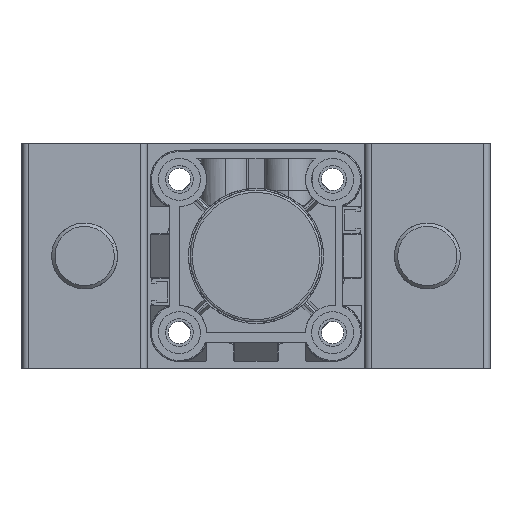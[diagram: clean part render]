
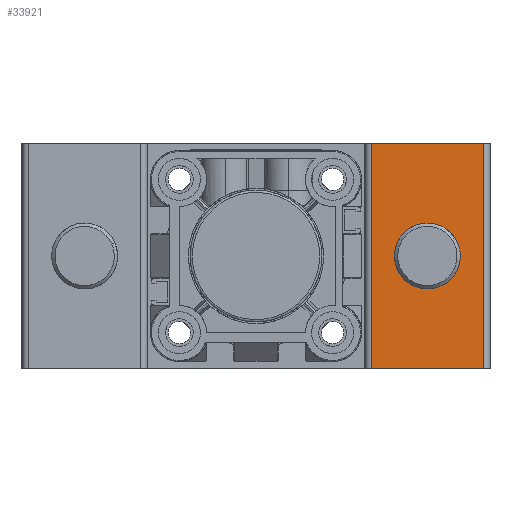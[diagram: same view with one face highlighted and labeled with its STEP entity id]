
A CAD part, front view. The second image highlights one B-rep face of the part: STEP entity #33921.
In plain terms, the highlighted planar face has unit normal (0, -1, 0).
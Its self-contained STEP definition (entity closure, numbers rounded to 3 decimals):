
#829 = AXIS2_PLACEMENT_3D ( 'NONE', #4124, #10228, #31377 ) ;
#1390 = VECTOR ( 'NONE', #4211, 1000. ) ;
#1780 = FACE_OUTER_BOUND ( 'NONE', #31343, .T. ) ;
#2464 = VERTEX_POINT ( 'NONE', #5852 ) ;
#3019 = LINE ( 'NONE', #5298, #26238 ) ;
#3596 = DIRECTION ( 'NONE',  ( 0., -1., 0. ) ) ;
#4054 = EDGE_CURVE ( 'NONE', #30308, #20688, #17501, .T. ) ;
#4124 = CARTESIAN_POINT ( 'NONE',  ( 140., -151., 68.5 ) ) ;
#4211 = DIRECTION ( 'NONE',  ( 1., 0., 0. ) ) ;
#5298 = CARTESIAN_POINT ( 'NONE',  ( 106., -151., 68.5 ) ) ;
#5852 = CARTESIAN_POINT ( 'NONE',  ( 106., -151., 68.5 ) ) ;
#6031 = DIRECTION ( 'NONE',  ( 1., 0., 0. ) ) ;
#8581 = CARTESIAN_POINT ( 'NONE',  ( 123., -151., 24.25 ) ) ;
#9743 = AXIS2_PLACEMENT_3D ( 'NONE', #21698, #3596, #24755 ) ;
#10228 = DIRECTION ( 'NONE',  ( 0., 1., 0. ) ) ;
#11663 = VERTEX_POINT ( 'NONE', #12394 ) ;
#11770 = CIRCLE ( 'NONE', #15524, 10. ) ;
#12394 = CARTESIAN_POINT ( 'NONE',  ( 123., -151., 44.25 ) ) ;
#14180 = CARTESIAN_POINT ( 'NONE',  ( 140., -151., 68.5 ) ) ;
#14733 = CARTESIAN_POINT ( 'NONE',  ( 123., -151., 34.25 ) ) ;
#14966 = CIRCLE ( 'NONE', #9743, 10. ) ;
#15388 = EDGE_CURVE ( 'NONE', #34162, #11663, #11770, .T. ) ;
#15524 = AXIS2_PLACEMENT_3D ( 'NONE', #14733, #35895, #17765 ) ;
#15550 = EDGE_LOOP ( 'NONE', ( #23834, #36723 ) ) ;
#17125 = EDGE_CURVE ( 'NONE', #11663, #34162, #14966, .T. ) ;
#17501 = LINE ( 'NONE', #22180, #25577 ) ;
#17765 = DIRECTION ( 'NONE',  ( 0., 0., -1. ) ) ;
#19879 = VERTEX_POINT ( 'NONE', #24573 ) ;
#20054 = CARTESIAN_POINT ( 'NONE',  ( 140., -151., 0. ) ) ;
#20688 = VERTEX_POINT ( 'NONE', #20054 ) ;
#21698 = CARTESIAN_POINT ( 'NONE',  ( 123., -151., 34.25 ) ) ;
#22180 = CARTESIAN_POINT ( 'NONE',  ( 140., -151., 68.5 ) ) ;
#23834 = ORIENTED_EDGE ( 'NONE', *, *, #15388, .F. ) ;
#24573 = CARTESIAN_POINT ( 'NONE',  ( 106., -151., 0. ) ) ;
#24755 = DIRECTION ( 'NONE',  ( 0., 0., -1. ) ) ;
#24945 = EDGE_CURVE ( 'NONE', #19879, #20688, #37905, .T. ) ;
#25253 = DIRECTION ( 'NONE',  ( 0., 0., -1. ) ) ;
#25577 = VECTOR ( 'NONE', #25253, 1000. ) ;
#26238 = VECTOR ( 'NONE', #29480, 1000. ) ;
#28335 = PLANE ( 'NONE',  #829 ) ;
#29441 = ORIENTED_EDGE ( 'NONE', *, *, #31984, .F. ) ;
#29480 = DIRECTION ( 'NONE',  ( 0., 0., -1. ) ) ;
#29806 = VECTOR ( 'NONE', #6031, 1000. ) ;
#29854 = ORIENTED_EDGE ( 'NONE', *, *, #24945, .T. ) ;
#30308 = VERTEX_POINT ( 'NONE', #14180 ) ;
#31185 = CARTESIAN_POINT ( 'NONE',  ( 140., -151., 68.5 ) ) ;
#31343 = EDGE_LOOP ( 'NONE', ( #29854, #38887, #29441, #32682 ) ) ;
#31377 = DIRECTION ( 'NONE',  ( 0., 0., 1. ) ) ;
#31984 = EDGE_CURVE ( 'NONE', #2464, #30308, #33549, .T. ) ;
#32682 = ORIENTED_EDGE ( 'NONE', *, *, #36732, .T. ) ;
#33005 = FACE_BOUND ( 'NONE', #15550, .T. ) ;
#33549 = LINE ( 'NONE', #31185, #1390 ) ;
#33921 = ADVANCED_FACE ( 'NONE', ( #33005, #1780 ), #28335, .F. ) ;
#34162 = VERTEX_POINT ( 'NONE', #8581 ) ;
#35895 = DIRECTION ( 'NONE',  ( 0., -1., 0. ) ) ;
#36198 = CARTESIAN_POINT ( 'NONE',  ( 140., -151., 0. ) ) ;
#36723 = ORIENTED_EDGE ( 'NONE', *, *, #17125, .F. ) ;
#36732 = EDGE_CURVE ( 'NONE', #2464, #19879, #3019, .T. ) ;
#37905 = LINE ( 'NONE', #36198, #29806 ) ;
#38887 = ORIENTED_EDGE ( 'NONE', *, *, #4054, .F. ) ;
